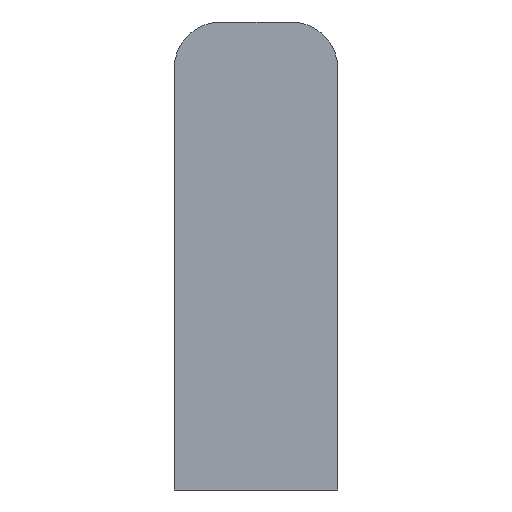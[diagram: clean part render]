
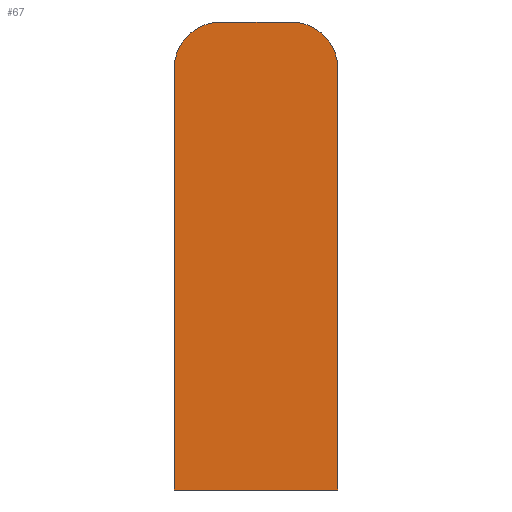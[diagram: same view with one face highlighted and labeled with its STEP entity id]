
A CAD part, front view. The second image highlights one B-rep face of the part: STEP entity #67.
In plain terms, the highlighted planar face has unit normal (0, -1, 0).
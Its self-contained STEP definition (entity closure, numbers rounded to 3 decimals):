
#2 = VECTOR ( 'NONE', #311, 1000. ) ;
#3 = LINE ( 'NONE', #285, #2 ) ;
#7 = CIRCLE ( 'NONE', #80, 3. ) ;
#14 = LINE ( 'NONE', #334, #15 ) ;
#15 = VECTOR ( 'NONE', #335, 1000. ) ;
#24 = LINE ( 'NONE', #338, #25 ) ;
#25 = VECTOR ( 'NONE', #339, 1000. ) ;
#34 = LINE ( 'NONE', #359, #35 ) ;
#35 = VECTOR ( 'NONE', #360, 1000. ) ;
#41 = CIRCLE ( 'NONE', #101, 3. ) ;
#67 = ADVANCED_FACE ( 'NONE', ( #212 ), #290, .F. ) ;
#80 = AXIS2_PLACEMENT_3D ( 'NONE', #312, #314, #315 ) ;
#81 = EDGE_CURVE ( 'NONE', #256, #253, #3, .T. ) ;
#83 = EDGE_CURVE ( 'NONE', #251, #256, #7, .T. ) ;
#92 = EDGE_CURVE ( 'NONE', #246, #251, #14, .T. ) ;
#94 = EDGE_CURVE ( 'NONE', #248, #250, #24, .T. ) ;
#101 = AXIS2_PLACEMENT_3D ( 'NONE', #354, #357, #358 ) ;
#116 = EDGE_CURVE ( 'NONE', #250, #246, #41, .T. ) ;
#117 = EDGE_CURVE ( 'NONE', #253, #248, #34, .T. ) ;
#119 = AXIS2_PLACEMENT_3D ( 'NONE', #293, #286, #289 ) ;
#137 = ORIENTED_EDGE ( 'NONE', *, *, #94, .T. ) ;
#139 = ORIENTED_EDGE ( 'NONE', *, *, #116, .T. ) ;
#212 = FACE_OUTER_BOUND ( 'NONE', #232, .T. ) ;
#220 = ORIENTED_EDGE ( 'NONE', *, *, #92, .T. ) ;
#221 = ORIENTED_EDGE ( 'NONE', *, *, #83, .T. ) ;
#222 = ORIENTED_EDGE ( 'NONE', *, *, #81, .T. ) ;
#224 = ORIENTED_EDGE ( 'NONE', *, *, #117, .T. ) ;
#232 = EDGE_LOOP ( 'NONE', ( #137, #139, #220, #221, #222, #224 ) ) ;
#246 = VERTEX_POINT ( 'NONE', #381 ) ;
#248 = VERTEX_POINT ( 'NONE', #382 ) ;
#250 = VERTEX_POINT ( 'NONE', #383 ) ;
#251 = VERTEX_POINT ( 'NONE', #384 ) ;
#253 = VERTEX_POINT ( 'NONE', #386 ) ;
#256 = VERTEX_POINT ( 'NONE', #389 ) ;
#285 = CARTESIAN_POINT ( 'NONE',  ( -5.25, 0., -16.5 ) ) ;
#286 = DIRECTION ( 'NONE',  ( 0., 1., 0. ) ) ;
#289 = DIRECTION ( 'NONE',  ( -1., 0., 0. ) ) ;
#290 = PLANE ( 'NONE',  #119 ) ;
#293 = CARTESIAN_POINT ( 'NONE',  ( 0., 0., -1.5 ) ) ;
#311 = DIRECTION ( 'NONE',  ( 0., 0., -1. ) ) ;
#312 = CARTESIAN_POINT ( 'NONE',  ( -2.25, 0., 10.5 ) ) ;
#314 = DIRECTION ( 'NONE',  ( 0., -1., 0. ) ) ;
#315 = DIRECTION ( 'NONE',  ( -1., 0., 0. ) ) ;
#334 = CARTESIAN_POINT ( 'NONE',  ( 2.25, 0., 13.5 ) ) ;
#335 = DIRECTION ( 'NONE',  ( -1., 0., 0. ) ) ;
#338 = CARTESIAN_POINT ( 'NONE',  ( 5.25, 0., -16.5 ) ) ;
#339 = DIRECTION ( 'NONE',  ( 0., 0., 1. ) ) ;
#354 = CARTESIAN_POINT ( 'NONE',  ( 2.25, 0., 10.5 ) ) ;
#357 = DIRECTION ( 'NONE',  ( 0., -1., 0. ) ) ;
#358 = DIRECTION ( 'NONE',  ( -1., 0., 0. ) ) ;
#359 = CARTESIAN_POINT ( 'NONE',  ( 5.25, 0., -16.5 ) ) ;
#360 = DIRECTION ( 'NONE',  ( 1., 0., 0. ) ) ;
#381 = CARTESIAN_POINT ( 'NONE',  ( 2.25, 0., 13.5 ) ) ;
#382 = CARTESIAN_POINT ( 'NONE',  ( 5.25, 0., -16.5 ) ) ;
#383 = CARTESIAN_POINT ( 'NONE',  ( 5.25, 0., 10.5 ) ) ;
#384 = CARTESIAN_POINT ( 'NONE',  ( -2.25, 0., 13.5 ) ) ;
#386 = CARTESIAN_POINT ( 'NONE',  ( -5.25, 0., -16.5 ) ) ;
#389 = CARTESIAN_POINT ( 'NONE',  ( -5.25, 0., 10.5 ) ) ;
